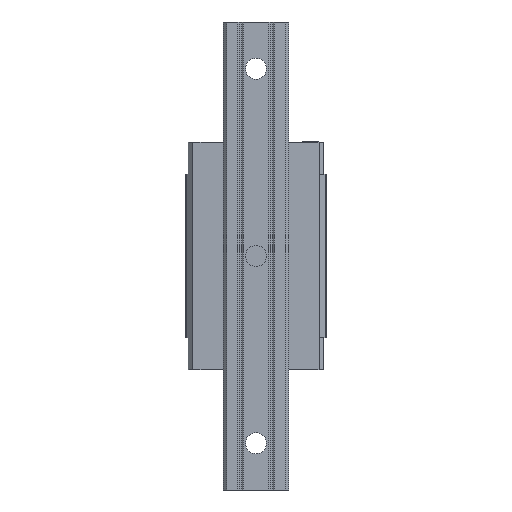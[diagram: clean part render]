
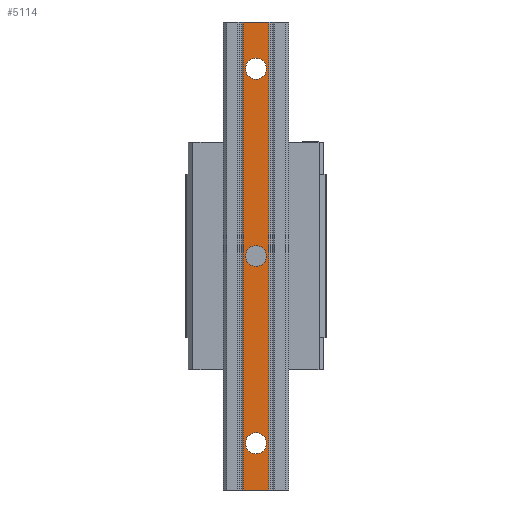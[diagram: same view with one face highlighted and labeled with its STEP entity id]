
A CAD part, front view. The second image highlights one B-rep face of the part: STEP entity #5114.
In plain terms, the highlighted planar face has unit normal (0, -1, 0).
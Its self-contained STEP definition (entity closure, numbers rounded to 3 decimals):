
#34 = CARTESIAN_POINT ( 'NONE',  ( 0., -26., -80. ) ) ;
#221 = DIRECTION ( 'NONE',  ( 0., 1., 0. ) ) ;
#354 = ORIENTED_EDGE ( 'NONE', *, *, #22084, .T. ) ;
#464 = CARTESIAN_POINT ( 'NONE',  ( -4.5, -26., 0. ) ) ;
#771 = EDGE_CURVE ( 'NONE', #31773, #38193, #16965, .T. ) ;
#925 = LINE ( 'NONE', #38009, #20141 ) ;
#966 = ORIENTED_EDGE ( 'NONE', *, *, #39415, .T. ) ;
#1186 = EDGE_LOOP ( 'NONE', ( #966, #354 ) ) ;
#1534 = EDGE_CURVE ( 'NONE', #17657, #30827, #17091, .T. ) ;
#1983 = EDGE_LOOP ( 'NONE', ( #23852, #34453 ) ) ;
#3376 = DIRECTION ( 'NONE',  ( -1., 0., 0. ) ) ;
#3951 = AXIS2_PLACEMENT_3D ( 'NONE', #16545, #7591, #7402 ) ;
#4152 = CARTESIAN_POINT ( 'NONE',  ( -5.55, -26., -100. ) ) ;
#5034 = FACE_BOUND ( 'NONE', #22897, .T. ) ;
#5114 = ADVANCED_FACE ( 'NONE', ( #26513, #38895, #5034, #32996 ), #30134, .T. ) ;
#5240 = DIRECTION ( 'NONE',  ( -1., 0., 0. ) ) ;
#5512 = CARTESIAN_POINT ( 'NONE',  ( -5.55, -26., 100. ) ) ;
#6610 = AXIS2_PLACEMENT_3D ( 'NONE', #34, #221, #21483 ) ;
#7018 = DIRECTION ( 'NONE',  ( 0., 0., -1. ) ) ;
#7402 = DIRECTION ( 'NONE',  ( -1., 0., 0. ) ) ;
#7584 = DIRECTION ( 'NONE',  ( 1., 0., 0. ) ) ;
#7591 = DIRECTION ( 'NONE',  ( 0., 1., 0. ) ) ;
#8055 = CARTESIAN_POINT ( 'NONE',  ( 5.55, -26., -100. ) ) ;
#8287 = VECTOR ( 'NONE', #21456, 1000. ) ;
#9441 = ORIENTED_EDGE ( 'NONE', *, *, #23679, .T. ) ;
#9860 = DIRECTION ( 'NONE',  ( 0., 1., 0. ) ) ;
#10524 = EDGE_CURVE ( 'NONE', #21670, #30219, #16815, .T. ) ;
#12066 = DIRECTION ( 'NONE',  ( 0., 1., 0. ) ) ;
#12097 = DIRECTION ( 'NONE',  ( 0., 1., 0. ) ) ;
#12900 = ORIENTED_EDGE ( 'NONE', *, *, #21488, .T. ) ;
#13219 = EDGE_CURVE ( 'NONE', #31773, #30219, #16013, .T. ) ;
#13279 = AXIS2_PLACEMENT_3D ( 'NONE', #18054, #33065, #15034 ) ;
#13388 = EDGE_CURVE ( 'NONE', #31046, #15212, #19274, .T. ) ;
#14363 = CARTESIAN_POINT ( 'NONE',  ( 0., -26., 0. ) ) ;
#14709 = CARTESIAN_POINT ( 'NONE',  ( 0., -26., 80. ) ) ;
#14868 = VERTEX_POINT ( 'NONE', #28559 ) ;
#15034 = DIRECTION ( 'NONE',  ( -1., 0., 0. ) ) ;
#15212 = VERTEX_POINT ( 'NONE', #32799 ) ;
#15451 = VERTEX_POINT ( 'NONE', #31359 ) ;
#16013 = LINE ( 'NONE', #28329, #8287 ) ;
#16545 = CARTESIAN_POINT ( 'NONE',  ( 0., -26., -80. ) ) ;
#16680 = VECTOR ( 'NONE', #29156, 1000. ) ;
#16815 = LINE ( 'NONE', #8055, #16680 ) ;
#16965 = LINE ( 'NONE', #29099, #23500 ) ;
#17070 = EDGE_CURVE ( 'NONE', #15212, #31046, #17804, .T. ) ;
#17091 = CIRCLE ( 'NONE', #18347, 4.5 ) ;
#17657 = VERTEX_POINT ( 'NONE', #464 ) ;
#17804 = CIRCLE ( 'NONE', #13279, 4.5 ) ;
#18054 = CARTESIAN_POINT ( 'NONE',  ( 0., -26., 80. ) ) ;
#18194 = DIRECTION ( 'NONE',  ( 0., 0., -1. ) ) ;
#18347 = AXIS2_PLACEMENT_3D ( 'NONE', #39353, #9860, #3376 ) ;
#19274 = CIRCLE ( 'NONE', #21834, 4.5 ) ;
#19792 = AXIS2_PLACEMENT_3D ( 'NONE', #14363, #12097, #5240 ) ;
#20141 = VECTOR ( 'NONE', #7584, 1000. ) ;
#21456 = DIRECTION ( 'NONE',  ( 1., 0., 0. ) ) ;
#21483 = DIRECTION ( 'NONE',  ( -1., 0., 0. ) ) ;
#21488 = EDGE_CURVE ( 'NONE', #38193, #21670, #925, .T. ) ;
#21670 = VERTEX_POINT ( 'NONE', #30586 ) ;
#21834 = AXIS2_PLACEMENT_3D ( 'NONE', #14709, #12066, #24423 ) ;
#22084 = EDGE_CURVE ( 'NONE', #14868, #15451, #29853, .T. ) ;
#22897 = EDGE_LOOP ( 'NONE', ( #39723, #9441 ) ) ;
#23500 = VECTOR ( 'NONE', #7018, 1000. ) ;
#23679 = EDGE_CURVE ( 'NONE', #30827, #17657, #33355, .T. ) ;
#23852 = ORIENTED_EDGE ( 'NONE', *, *, #13388, .T. ) ;
#24423 = DIRECTION ( 'NONE',  ( -1., 0., 0. ) ) ;
#25449 = ORIENTED_EDGE ( 'NONE', *, *, #771, .T. ) ;
#26513 = FACE_BOUND ( 'NONE', #1186, .T. ) ;
#27500 = CARTESIAN_POINT ( 'NONE',  ( -4.5, -26., 80. ) ) ;
#27683 = ORIENTED_EDGE ( 'NONE', *, *, #13219, .F. ) ;
#28329 = CARTESIAN_POINT ( 'NONE',  ( 0., -26., 100. ) ) ;
#28559 = CARTESIAN_POINT ( 'NONE',  ( 4.5, -26., -80. ) ) ;
#29099 = CARTESIAN_POINT ( 'NONE',  ( -5.55, -26., -100. ) ) ;
#29156 = DIRECTION ( 'NONE',  ( 0., 0., 1. ) ) ;
#29853 = CIRCLE ( 'NONE', #3951, 4.5 ) ;
#30134 = PLANE ( 'NONE',  #32740 ) ;
#30219 = VERTEX_POINT ( 'NONE', #37069 ) ;
#30344 = DIRECTION ( 'NONE',  ( 0., -1., 0. ) ) ;
#30586 = CARTESIAN_POINT ( 'NONE',  ( 5.55, -26., -100. ) ) ;
#30827 = VERTEX_POINT ( 'NONE', #34450 ) ;
#31046 = VERTEX_POINT ( 'NONE', #27500 ) ;
#31215 = CIRCLE ( 'NONE', #6610, 4.5 ) ;
#31359 = CARTESIAN_POINT ( 'NONE',  ( -4.5, -26., -80. ) ) ;
#31773 = VERTEX_POINT ( 'NONE', #5512 ) ;
#32740 = AXIS2_PLACEMENT_3D ( 'NONE', #33179, #30344, #18194 ) ;
#32799 = CARTESIAN_POINT ( 'NONE',  ( 4.5, -26., 80. ) ) ;
#32996 = FACE_OUTER_BOUND ( 'NONE', #36812, .T. ) ;
#33065 = DIRECTION ( 'NONE',  ( 0., 1., 0. ) ) ;
#33179 = CARTESIAN_POINT ( 'NONE',  ( -5.55, -26., -100. ) ) ;
#33355 = CIRCLE ( 'NONE', #19792, 4.5 ) ;
#34450 = CARTESIAN_POINT ( 'NONE',  ( 4.5, -26., 0. ) ) ;
#34453 = ORIENTED_EDGE ( 'NONE', *, *, #17070, .T. ) ;
#36474 = ORIENTED_EDGE ( 'NONE', *, *, #10524, .T. ) ;
#36812 = EDGE_LOOP ( 'NONE', ( #36474, #27683, #25449, #12900 ) ) ;
#37069 = CARTESIAN_POINT ( 'NONE',  ( 5.55, -26., 100. ) ) ;
#38009 = CARTESIAN_POINT ( 'NONE',  ( 0., -26., -100. ) ) ;
#38193 = VERTEX_POINT ( 'NONE', #4152 ) ;
#38895 = FACE_BOUND ( 'NONE', #1983, .T. ) ;
#39353 = CARTESIAN_POINT ( 'NONE',  ( 0., -26., 0. ) ) ;
#39415 = EDGE_CURVE ( 'NONE', #15451, #14868, #31215, .T. ) ;
#39723 = ORIENTED_EDGE ( 'NONE', *, *, #1534, .T. ) ;
